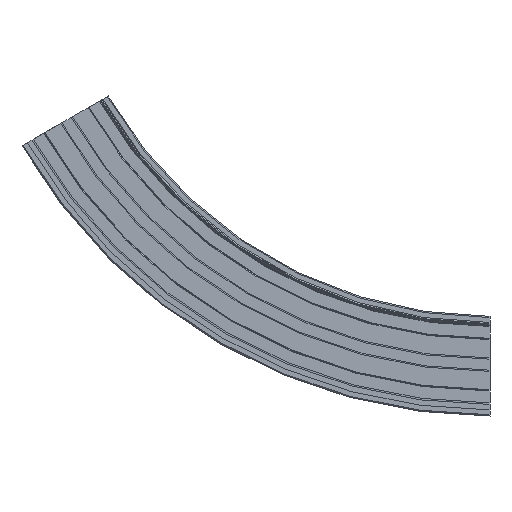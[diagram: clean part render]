
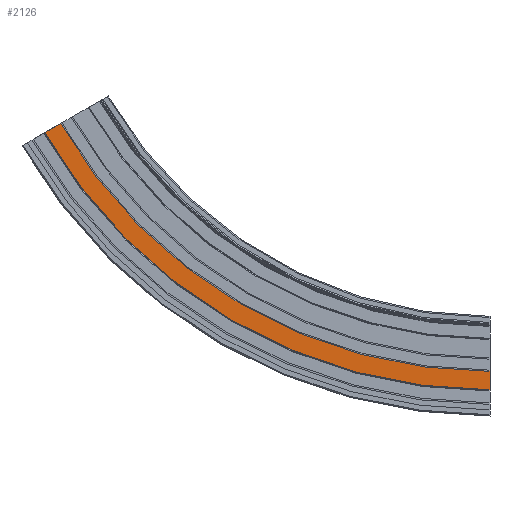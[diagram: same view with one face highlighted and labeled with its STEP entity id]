
A CAD part, left-side view. The second image highlights one B-rep face of the part: STEP entity #2126.
In plain terms, the highlighted planar face has unit normal (-1, 0, 0).
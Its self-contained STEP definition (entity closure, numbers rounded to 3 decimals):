
#214=CIRCLE('',#2314,405.5);
#215=CIRCLE('',#2316,420.5);
#325=FACE_OUTER_BOUND('',#443,.T.);
#443=EDGE_LOOP('',(#1725,#1726,#1727,#1728));
#593=LINE('',#8168,#771);
#594=LINE('',#8170,#772);
#771=VECTOR('',#2772,10.);
#772=VECTOR('',#2773,10.);
#983=VERTEX_POINT('',#8161);
#984=VERTEX_POINT('',#8163);
#985=VERTEX_POINT('',#8167);
#986=VERTEX_POINT('',#8169);
#1271=EDGE_CURVE('',#983,#984,#214,.T.);
#1272=EDGE_CURVE('',#985,#983,#593,.T.);
#1273=EDGE_CURVE('',#986,#984,#594,.T.);
#1274=EDGE_CURVE('',#985,#986,#215,.T.);
#1725=ORIENTED_EDGE('',*,*,#1272,.T.);
#1726=ORIENTED_EDGE('',*,*,#1271,.T.);
#1727=ORIENTED_EDGE('',*,*,#1273,.F.);
#1728=ORIENTED_EDGE('',*,*,#1274,.F.);
#2030=PLANE('',#2315);
#2126=ADVANCED_FACE('',(#325),#2030,.T.);
#2314=AXIS2_PLACEMENT_3D('',#8165,#2768,#2769);
#2315=AXIS2_PLACEMENT_3D('',#8166,#2770,#2771);
#2316=AXIS2_PLACEMENT_3D('',#8171,#2774,#2775);
#2768=DIRECTION('center_axis',(1.,0.,0.));
#2769=DIRECTION('ref_axis',(0.,0.,-1.));
#2770=DIRECTION('center_axis',(-1.,0.,0.));
#2771=DIRECTION('ref_axis',(0.,0.,1.));
#2772=DIRECTION('',(0.,0.,1.));
#2773=DIRECTION('',(0.,-0.866,0.5));
#2774=DIRECTION('center_axis',(1.,0.,0.));
#2775=DIRECTION('ref_axis',(0.,0.,-1.));
#8161=CARTESIAN_POINT('',(-112.,0.,-5.5));
#8163=CARTESIAN_POINT('',(-112.,351.173,197.25));
#8165=CARTESIAN_POINT('Origin',(-112.,0.,400.));
#8166=CARTESIAN_POINT('Origin',(-112.,0.,-20.5));
#8167=CARTESIAN_POINT('',(-112.,0.,-20.5));
#8168=CARTESIAN_POINT('',(-112.,0.,-20.5));
#8169=CARTESIAN_POINT('',(-112.,364.163,189.75));
#8170=CARTESIAN_POINT('',(-112.,364.163,189.75));
#8171=CARTESIAN_POINT('Origin',(-112.,0.,400.));
